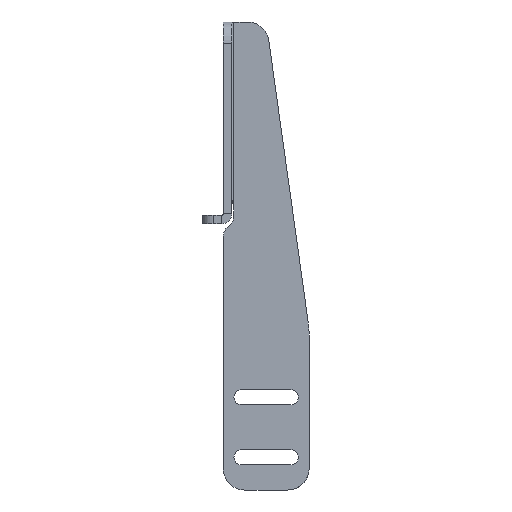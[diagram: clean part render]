
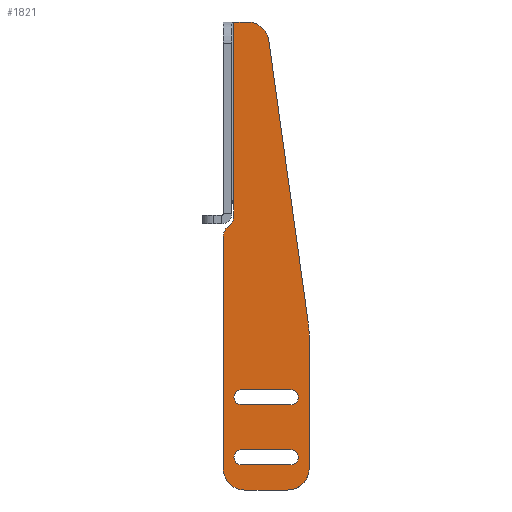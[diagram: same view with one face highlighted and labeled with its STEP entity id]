
A CAD part, front view. The second image highlights one B-rep face of the part: STEP entity #1821.
In plain terms, the highlighted planar face has unit normal (0, -1, 0).
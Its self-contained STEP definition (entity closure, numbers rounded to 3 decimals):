
#896=CARTESIAN_POINT('Vertex',(445.45,567.,261.5)) ;
#978=CARTESIAN_POINT('Vertex',(445.45,567.,176.385)) ;
#1071=CARTESIAN_POINT('Vertex',(480.168,567.,121.946)) ;
#1074=CARTESIAN_POINT('Axis2P3D Location',(430.65,567.,115.02)) ;
#1078=CARTESIAN_POINT('Vertex',(480.65,567.,115.02)) ;
#1116=CARTESIAN_POINT('Vertex',(461.855,567.,252.885)) ;
#1119=CARTESIAN_POINT('Line Origine',(471.011,567.,187.416)) ;
#1142=CARTESIAN_POINT('Vertex',(451.951,567.,261.5)) ;
#1145=CARTESIAN_POINT('Axis2P3D Location',(451.951,567.,251.5)) ;
#1167=CARTESIAN_POINT('Line Origine',(448.701,567.,261.5)) ;
#1195=CARTESIAN_POINT('Vertex',(440.65,567.,53.5)) ;
#1198=CARTESIAN_POINT('Line Origine',(440.65,567.,107.657)) ;
#1202=CARTESIAN_POINT('Vertex',(440.65,567.,161.814)) ;
#1229=CARTESIAN_POINT('Axis2P3D Location',(445.65,567.,161.814)) ;
#1233=CARTESIAN_POINT('Vertex',(442.449,567.,165.655)) ;
#1260=CARTESIAN_POINT('Line Origine',(443.05,567.,166.156)) ;
#1264=CARTESIAN_POINT('Vertex',(443.651,567.,166.656)) ;
#1291=CARTESIAN_POINT('Axis2P3D Location',(440.45,567.,170.497)) ;
#1295=CARTESIAN_POINT('Vertex',(445.45,567.,170.497)) ;
#1322=CARTESIAN_POINT('Line Origine',(445.45,567.,170.999)) ;
#1326=CARTESIAN_POINT('Vertex',(445.45,567.,171.5)) ;
#1360=CARTESIAN_POINT('Line Origine',(445.45,567.,173.928)) ;
#1364=CARTESIAN_POINT('Vertex',(445.45,567.,176.356)) ;
#1379=CARTESIAN_POINT('Line Origine',(445.45,567.,176.37)) ;
#1401=CARTESIAN_POINT('Line Origine',(445.45,567.,216.5)) ;
#1431=CARTESIAN_POINT('Vertex',(449.15,567.,62.2)) ;
#1434=CARTESIAN_POINT('Axis2P3D Location',(449.15,567.,58.7)) ;
#1438=CARTESIAN_POINT('Vertex',(449.15,567.,55.2)) ;
#1465=CARTESIAN_POINT('Line Origine',(460.65,567.,55.2)) ;
#1469=CARTESIAN_POINT('Vertex',(472.15,567.,55.2)) ;
#1496=CARTESIAN_POINT('Axis2P3D Location',(472.15,567.,58.7)) ;
#1500=CARTESIAN_POINT('Vertex',(472.15,567.,62.2)) ;
#1520=CARTESIAN_POINT('Line Origine',(460.65,567.,62.2)) ;
#1555=CARTESIAN_POINT('Vertex',(449.15,567.,90.2)) ;
#1558=CARTESIAN_POINT('Axis2P3D Location',(449.15,567.,86.7)) ;
#1562=CARTESIAN_POINT('Vertex',(449.15,567.,83.2)) ;
#1589=CARTESIAN_POINT('Line Origine',(460.65,567.,83.2)) ;
#1593=CARTESIAN_POINT('Vertex',(472.15,567.,83.2)) ;
#1620=CARTESIAN_POINT('Axis2P3D Location',(472.15,567.,86.7)) ;
#1624=CARTESIAN_POINT('Vertex',(472.15,567.,90.2)) ;
#1644=CARTESIAN_POINT('Line Origine',(460.65,567.,90.2)) ;
#1666=CARTESIAN_POINT('Line Origine',(480.65,567.,84.26)) ;
#1670=CARTESIAN_POINT('Vertex',(480.65,567.,53.5)) ;
#1756=CARTESIAN_POINT('Vertex',(450.65,567.,43.5)) ;
#1759=CARTESIAN_POINT('Axis2P3D Location',(450.65,567.,53.5)) ;
#1771=CARTESIAN_POINT('Axis2P3D Location',(0.,567.,0.)) ;
#1776=CARTESIAN_POINT('Line Origine',(460.65,567.,43.5)) ;
#1780=CARTESIAN_POINT('Vertex',(470.65,567.,43.5)) ;
#1784=CARTESIAN_POINT('Control Point',(480.65,567.,53.5)) ;
#1785=CARTESIAN_POINT('Control Point',(480.65,567.,50.358)) ;
#1786=CARTESIAN_POINT('Control Point',(479.42,567.,47.214)) ;
#1787=CARTESIAN_POINT('Control Point',(476.936,567.,44.73)) ;
#1788=CARTESIAN_POINT('Control Point',(473.792,567.,43.5)) ;
#1789=CARTESIAN_POINT('Control Point',(470.65,567.,43.5)) ;
#1075=DIRECTION('Axis2P3D Direction',(0.,1.,0.)) ;
#1120=DIRECTION('Vector Direction',(0.139,0.,-0.99)) ;
#1146=DIRECTION('Axis2P3D Direction',(0.,1.,0.)) ;
#1168=DIRECTION('Vector Direction',(1.,0.,0.)) ;
#1199=DIRECTION('Vector Direction',(0.,0.,1.)) ;
#1230=DIRECTION('Axis2P3D Direction',(0.,1.,0.)) ;
#1261=DIRECTION('Vector Direction',(0.768,0.,0.64)) ;
#1292=DIRECTION('Axis2P3D Direction',(0.,1.,0.)) ;
#1323=DIRECTION('Vector Direction',(0.,0.,-1.)) ;
#1361=DIRECTION('Vector Direction',(0.,0.,1.)) ;
#1380=DIRECTION('Vector Direction',(0.,0.,1.)) ;
#1402=DIRECTION('Vector Direction',(0.,0.,1.)) ;
#1435=DIRECTION('Axis2P3D Direction',(0.,1.,0.)) ;
#1466=DIRECTION('Vector Direction',(1.,0.,0.)) ;
#1497=DIRECTION('Axis2P3D Direction',(0.,1.,0.)) ;
#1521=DIRECTION('Vector Direction',(1.,0.,0.)) ;
#1559=DIRECTION('Axis2P3D Direction',(0.,1.,0.)) ;
#1590=DIRECTION('Vector Direction',(1.,0.,0.)) ;
#1621=DIRECTION('Axis2P3D Direction',(0.,1.,0.)) ;
#1645=DIRECTION('Vector Direction',(1.,0.,0.)) ;
#1667=DIRECTION('Vector Direction',(0.,0.,-1.)) ;
#1760=DIRECTION('Axis2P3D Direction',(0.,1.,0.)) ;
#1772=DIRECTION('Axis2P3D Direction',(0.,1.,0.)) ;
#1773=DIRECTION('Axis2P3D XDirection',(-1.,0.,0.)) ;
#1777=DIRECTION('Vector Direction',(-1.,0.,0.)) ;
#1076=AXIS2_PLACEMENT_3D('Circle Axis2P3D',#1074,#1075,$) ;
#1147=AXIS2_PLACEMENT_3D('Circle Axis2P3D',#1145,#1146,$) ;
#1231=AXIS2_PLACEMENT_3D('Circle Axis2P3D',#1229,#1230,$) ;
#1293=AXIS2_PLACEMENT_3D('Circle Axis2P3D',#1291,#1292,$) ;
#1436=AXIS2_PLACEMENT_3D('Circle Axis2P3D',#1434,#1435,$) ;
#1498=AXIS2_PLACEMENT_3D('Circle Axis2P3D',#1496,#1497,$) ;
#1560=AXIS2_PLACEMENT_3D('Circle Axis2P3D',#1558,#1559,$) ;
#1622=AXIS2_PLACEMENT_3D('Circle Axis2P3D',#1620,#1621,$) ;
#1761=AXIS2_PLACEMENT_3D('Circle Axis2P3D',#1759,#1760,$) ;
#1774=AXIS2_PLACEMENT_3D('Plane Axis2P3D',#1771,#1772,#1773) ;
#1792=ORIENTED_EDGE('',*,*,#1763,.F.) ;
#1793=ORIENTED_EDGE('',*,*,#1782,.F.) ;
#1794=ORIENTED_EDGE('',*,*,#1790,.F.) ;
#1795=ORIENTED_EDGE('',*,*,#1672,.F.) ;
#1796=ORIENTED_EDGE('',*,*,#1080,.F.) ;
#1797=ORIENTED_EDGE('',*,*,#1123,.F.) ;
#1798=ORIENTED_EDGE('',*,*,#1149,.F.) ;
#1799=ORIENTED_EDGE('',*,*,#1171,.F.) ;
#1800=ORIENTED_EDGE('',*,*,#1405,.T.) ;
#1801=ORIENTED_EDGE('',*,*,#1383,.F.) ;
#1802=ORIENTED_EDGE('',*,*,#1366,.F.) ;
#1803=ORIENTED_EDGE('',*,*,#1328,.T.) ;
#1804=ORIENTED_EDGE('',*,*,#1297,.T.) ;
#1805=ORIENTED_EDGE('',*,*,#1266,.F.) ;
#1806=ORIENTED_EDGE('',*,*,#1235,.F.) ;
#1807=ORIENTED_EDGE('',*,*,#1204,.F.) ;
#1810=ORIENTED_EDGE('',*,*,#1524,.T.) ;
#1811=ORIENTED_EDGE('',*,*,#1502,.T.) ;
#1812=ORIENTED_EDGE('',*,*,#1471,.F.) ;
#1813=ORIENTED_EDGE('',*,*,#1440,.T.) ;
#1816=ORIENTED_EDGE('',*,*,#1648,.T.) ;
#1817=ORIENTED_EDGE('',*,*,#1626,.T.) ;
#1818=ORIENTED_EDGE('',*,*,#1595,.F.) ;
#1819=ORIENTED_EDGE('',*,*,#1564,.T.) ;
#1814=FACE_BOUND('',#1809,.T.) ;
#1820=FACE_BOUND('',#1815,.T.) ;
#1121=VECTOR('Line Direction',#1120,1.) ;
#1169=VECTOR('Line Direction',#1168,1.) ;
#1200=VECTOR('Line Direction',#1199,1.) ;
#1262=VECTOR('Line Direction',#1261,1.) ;
#1324=VECTOR('Line Direction',#1323,1.) ;
#1362=VECTOR('Line Direction',#1361,1.) ;
#1381=VECTOR('Line Direction',#1380,1.) ;
#1403=VECTOR('Line Direction',#1402,1.) ;
#1467=VECTOR('Line Direction',#1466,1.) ;
#1522=VECTOR('Line Direction',#1521,1.) ;
#1591=VECTOR('Line Direction',#1590,1.) ;
#1646=VECTOR('Line Direction',#1645,1.) ;
#1668=VECTOR('Line Direction',#1667,1.) ;
#1778=VECTOR('Line Direction',#1777,1.) ;
#1821=ADVANCED_FACE('\X2\96F64EF651E04F554F53\X0\',(#1808,#1814,#1820),#1775,.F.) ;
#1783=B_SPLINE_CURVE_WITH_KNOTS('',5,(#1784,#1785,#1786,#1787,#1788,#1789),.UNSPECIFIED.,.F.,.U.,(6,6),(31.416,47.124),.UNSPECIFIED.) ;
#1077=CIRCLE('generated circle',#1076,50.) ;
#1148=CIRCLE('generated circle',#1147,10.) ;
#1232=CIRCLE('generated circle',#1231,5.) ;
#1294=CIRCLE('generated circle',#1293,5.) ;
#1437=CIRCLE('generated circle',#1436,3.5) ;
#1499=CIRCLE('generated circle',#1498,3.5) ;
#1561=CIRCLE('generated circle',#1560,3.5) ;
#1623=CIRCLE('generated circle',#1622,3.5) ;
#1762=CIRCLE('generated circle',#1761,10.) ;
#1080=EDGE_CURVE('',#1072,#1079,#1077,.T.) ;
#1123=EDGE_CURVE('',#1117,#1072,#1122,.T.) ;
#1149=EDGE_CURVE('',#1143,#1117,#1148,.T.) ;
#1171=EDGE_CURVE('',#897,#1143,#1170,.T.) ;
#1204=EDGE_CURVE('',#1196,#1203,#1201,.T.) ;
#1235=EDGE_CURVE('',#1203,#1234,#1232,.T.) ;
#1266=EDGE_CURVE('',#1234,#1265,#1263,.T.) ;
#1297=EDGE_CURVE('',#1296,#1265,#1294,.T.) ;
#1328=EDGE_CURVE('',#1327,#1296,#1325,.T.) ;
#1366=EDGE_CURVE('',#1327,#1365,#1363,.T.) ;
#1383=EDGE_CURVE('',#1365,#979,#1382,.T.) ;
#1405=EDGE_CURVE('',#897,#979,#1404,.F.) ;
#1440=EDGE_CURVE('',#1439,#1432,#1437,.T.) ;
#1471=EDGE_CURVE('',#1439,#1470,#1468,.T.) ;
#1502=EDGE_CURVE('',#1501,#1470,#1499,.T.) ;
#1524=EDGE_CURVE('',#1432,#1501,#1523,.T.) ;
#1564=EDGE_CURVE('',#1563,#1556,#1561,.T.) ;
#1595=EDGE_CURVE('',#1563,#1594,#1592,.T.) ;
#1626=EDGE_CURVE('',#1625,#1594,#1623,.T.) ;
#1648=EDGE_CURVE('',#1556,#1625,#1647,.T.) ;
#1672=EDGE_CURVE('',#1079,#1671,#1669,.T.) ;
#1763=EDGE_CURVE('',#1757,#1196,#1762,.T.) ;
#1782=EDGE_CURVE('',#1781,#1757,#1779,.T.) ;
#1790=EDGE_CURVE('',#1671,#1781,#1783,.T.) ;
#1791=EDGE_LOOP('',(#1792,#1793,#1794,#1795,#1796,#1797,#1798,#1799,#1800,#1801,#1802,#1803,#1804,#1805,#1806,#1807)) ;
#1809=EDGE_LOOP('',(#1810,#1811,#1812,#1813)) ;
#1815=EDGE_LOOP('',(#1816,#1817,#1818,#1819)) ;
#1808=FACE_OUTER_BOUND('',#1791,.T.) ;
#1122=LINE('Line',#1119,#1121) ;
#1170=LINE('Line',#1167,#1169) ;
#1201=LINE('Line',#1198,#1200) ;
#1263=LINE('Line',#1260,#1262) ;
#1325=LINE('Line',#1322,#1324) ;
#1363=LINE('Line',#1360,#1362) ;
#1382=LINE('Line',#1379,#1381) ;
#1404=LINE('Line',#1401,#1403) ;
#1468=LINE('Line',#1465,#1467) ;
#1523=LINE('Line',#1520,#1522) ;
#1592=LINE('Line',#1589,#1591) ;
#1647=LINE('Line',#1644,#1646) ;
#1669=LINE('Line',#1666,#1668) ;
#1779=LINE('Line',#1776,#1778) ;
#1775=PLANE('',#1774) ;
#897=VERTEX_POINT('',#896) ;
#979=VERTEX_POINT('',#978) ;
#1072=VERTEX_POINT('',#1071) ;
#1079=VERTEX_POINT('',#1078) ;
#1117=VERTEX_POINT('',#1116) ;
#1143=VERTEX_POINT('',#1142) ;
#1196=VERTEX_POINT('',#1195) ;
#1203=VERTEX_POINT('',#1202) ;
#1234=VERTEX_POINT('',#1233) ;
#1265=VERTEX_POINT('',#1264) ;
#1296=VERTEX_POINT('',#1295) ;
#1327=VERTEX_POINT('',#1326) ;
#1365=VERTEX_POINT('',#1364) ;
#1432=VERTEX_POINT('',#1431) ;
#1439=VERTEX_POINT('',#1438) ;
#1470=VERTEX_POINT('',#1469) ;
#1501=VERTEX_POINT('',#1500) ;
#1556=VERTEX_POINT('',#1555) ;
#1563=VERTEX_POINT('',#1562) ;
#1594=VERTEX_POINT('',#1593) ;
#1625=VERTEX_POINT('',#1624) ;
#1671=VERTEX_POINT('',#1670) ;
#1757=VERTEX_POINT('',#1756) ;
#1781=VERTEX_POINT('',#1780) ;
